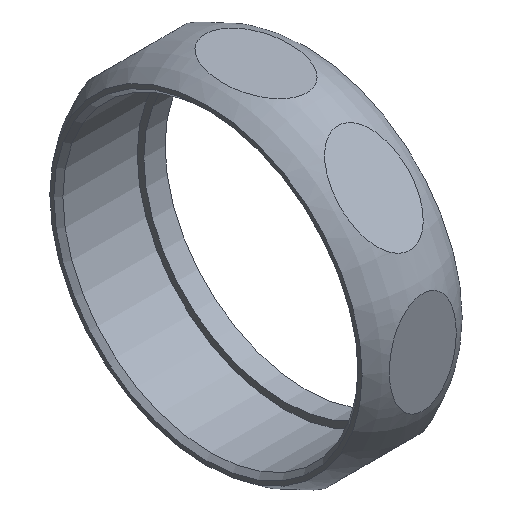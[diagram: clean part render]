
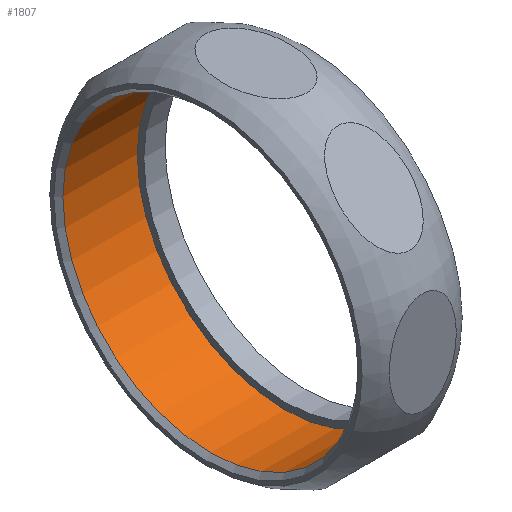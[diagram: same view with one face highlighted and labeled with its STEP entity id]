
A CAD part, isometric view. The second image highlights one B-rep face of the part: STEP entity #1807.
In plain terms, the highlighted cylindrical face has radius 48.686 mm (diameter 97.372 mm), a full revolution.
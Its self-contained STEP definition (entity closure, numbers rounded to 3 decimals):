
#1745=CARTESIAN_POINT('',(1.5,48.686,0.));
#1746=VERTEX_POINT('',#1745);
#1747=CARTESIAN_POINT('',(1.5,0.0,0.0));
#1748=DIRECTION('',(1.0,0.0,0.0));
#1749=DIRECTION('',(0.0,-1.0,0.0));
#1750=AXIS2_PLACEMENT_3D('',#1747,#1748,#1749);
#1751=CIRCLE('',#1750,48.686);
#1752=EDGE_CURVE('',#1746,#1746,#1751,.T.);
#1788=CARTESIAN_POINT('',(13.0,0.0,0.0));
#1789=DIRECTION('',(1.0,0.0,0.0));
#1790=DIRECTION('',(0.0,1.0,0.0));
#1791=AXIS2_PLACEMENT_3D('',#1788,#1789,#1790);
#1792=CYLINDRICAL_SURFACE('',#1791,48.686);
#1793=CARTESIAN_POINT('',(26.0,48.686,0.0));
#1794=VERTEX_POINT('',#1793);
#1795=CARTESIAN_POINT('',(26.0,0.0,0.0));
#1796=DIRECTION('',(1.0,0.0,0.0));
#1797=DIRECTION('',(0.0,1.0,0.0));
#1798=AXIS2_PLACEMENT_3D('',#1795,#1796,#1797);
#1799=CIRCLE('',#1798,48.686);
#1800=EDGE_CURVE('',#1794,#1794,#1799,.T.);
#1801=ORIENTED_EDGE('',*,*,#1800,.T.);
#1802=EDGE_LOOP('',(#1801));
#1803=FACE_OUTER_BOUND('',#1802,.T.);
#1804=ORIENTED_EDGE('',*,*,#1752,.F.);
#1805=EDGE_LOOP('',(#1804));
#1806=FACE_BOUND('',#1805,.T.);
#1807=ADVANCED_FACE('',(#1803,#1806),#1792,.F.);
